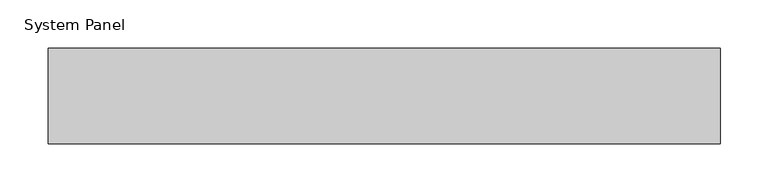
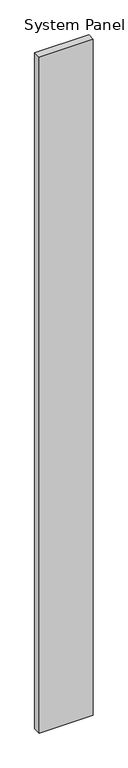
"""IFC4 building model written with IfcOpenShell, lengths in millimetres: plate geometry, System Panel : MetecnoSpan_100mm_Vertical_Plain_Surfmist."""

from ifc_helpers import new_model, si_unit, origin, origin_with_axes, place, context, project, spatial, polyline, outline, extrude, source, transform, mapped, element, save


def system_panel_8b37a0bf(model_context):
    return source(origin(), model_context, "Body", "SweptSolid", [
        extrude(outline(polyline([(350.0, -100.0), (-350.0, -100.0), (-350.0, 0.0), (350.0, 0.0), (350.0, -100.0)])), origin_with_axes(), (0.0, 0.0, 1.0), 9240.3821682),
    ])


if __name__ == "__main__":
    model = new_model("IFC4")
    model_context = context("Model", 3, world=origin())
    ifc_project = project(units=[si_unit("LENGTHUNIT", "METRE", prefix="MILLI")], contexts=[model_context])
    site = spatial("IfcSite", under=ifc_project)
    building = spatial("IfcBuilding", under=site)
    placement = place(None, origin())
    system_panel_shape = system_panel_8b37a0bf(model_context)
    element("IfcPlate", 1, ObjectType="System Panel : MetecnoSpan_100mm_Vertical_Plain_Surfmist", at=placement, inside=building, context=model_context, shape_type="MappedRepresentation", body=[
        mapped(system_panel_shape, transform((0.0, 0.0, 0.0), x_axis=(1.0, 0.0, 0.0), y_axis=(0.0, 1.0, 0.0), z_axis=(0.0, 0.0, 1.0))),
    ])
    save(model, "model.ifc")
